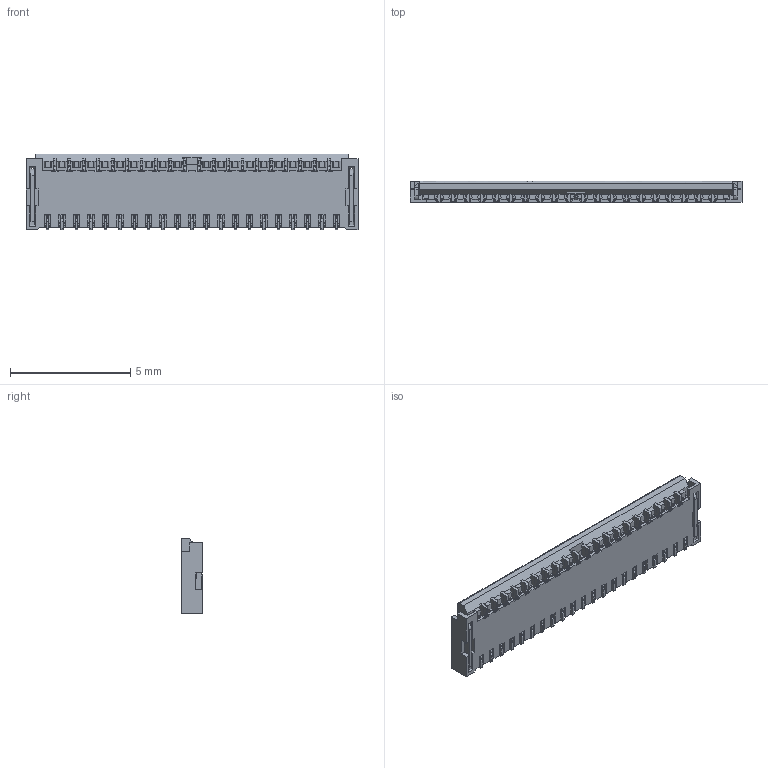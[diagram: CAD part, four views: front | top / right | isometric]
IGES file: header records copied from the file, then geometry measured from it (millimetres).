
Start section: SolidWorks IGES file using analytic representation for surfaces
Bounding box: 13.8 x 0.9 x 3.15 mm (x, y, z)
Surface area: 202.8 mm2 (no closed solid volume)
Topology: 0 solids, 0 shells, 3476 faces, 21316 edges, 21316 vertices
Faces by surface type: bspline 2986, revolution 490
